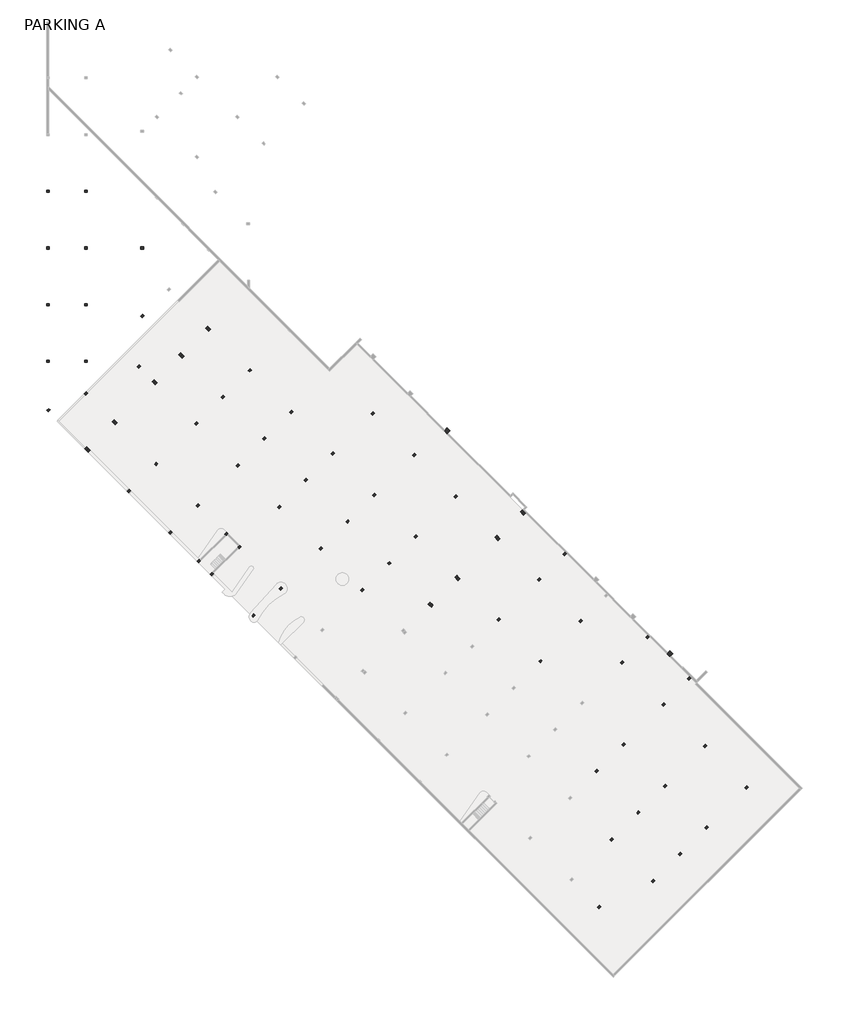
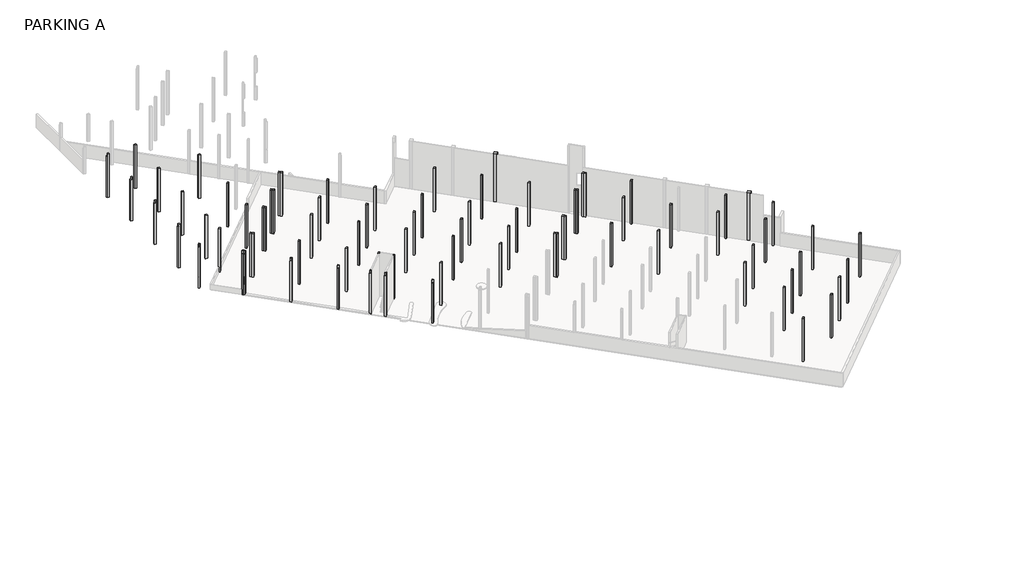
# One storey, part 2 of 3: 81 columns.
"""IFC4 building model written with IfcOpenShell, lengths in millimetres."""

from ifc_helpers import new_model, si_unit, frame, origin, place, context, project, spatial, polyline, outline, extrude, faceted_brep, transform, mapped, element, save
from components import column_746bd152, column_d698a775

model = new_model("IFC4")

# Units and contexts
model_context = context("Model", 3, world=origin())
ifc_project = project(units=[si_unit("LENGTHUNIT", "METRE", prefix="MILLI")], contexts=[model_context])

# Site, building, storey
site = spatial("IfcSite", under=ifc_project)
building = spatial("IfcBuilding", under=site)
storey = spatial("IfcBuildingStorey", under=building, Name="PARKING A", Elevation=-6007.1)

# Columns
placement = place(None, origin())
element("IfcColumn", 1, ObjectType="Rectangular Column : 12\" x 16\"", at=placement, inside=storey, context=model_context, shape_type="Brep", body=[
    faceted_brep([(-49625.8247889, 1181.6924939, -6007.1), (-49410.298642, 966.166347, -6007.1), (-49697.6668379, 678.7981512, -6007.1), (-49913.1929848, 894.3242981, -6007.1), (-49625.8247889, 1181.6924939, 3225.8), (-49410.298642, 966.166347, 3225.8), (-49589.9037645, 786.5612246, 3225.8), (-49589.9037645, 786.5612246, 2717.8), (-49697.6668379, 678.7981512, 2717.8), (-49697.6668379, 678.7981512, 762.0), (-49697.6668379, 678.7981512, -609.6), (-49697.6668379, 678.7981512, -2286.0), (-49697.6668379, 678.7981512, -3657.6), (-49913.1929848, 894.3242981, 2717.8), (-49913.1929848, 894.3242981, 762.0), (-49913.1929848, 894.3242981, -609.6), (-49913.1929848, 894.3242981, -2286.0), (-49913.1929848, 894.3242981, -3657.6), (-49805.4299114, 1002.0873715, 2717.8), (-49805.4299114, 1002.0873715, 3225.8)], [[[0, 1, 2, 3]], [[1, 0, 4, 5]], [[2, 1, 5, 6, 7, 8, 9, 10, 11, 12]], [[3, 2, 12, 11, 10, 9, 8, 13, 14, 15, 16, 17]], [[0, 3, 17, 16, 15, 14, 13, 18, 19, 4]], [[5, 4, 19, 6]], [[18, 7, 6, 19]], [[7, 18, 13, 8]]]),
])
element("IfcColumn", 2, ObjectType="Rectangular Column : 12\" x 16\"", at=placement, inside=storey, context=model_context, shape_type="Brep", body=[
    faceted_brep([(-55660.5569023, 7216.4246073, -6007.1), (-55445.0307554, 7000.8984604, -6007.1), (-55732.3989513, 6713.5302645, -6007.1), (-55947.9250982, 6929.0564114, -6007.1), (-55660.5569023, 7216.4246073, 3225.8), (-55445.0307554, 7000.8984604, 3225.8), (-55624.6358778, 6821.293338, 3225.8), (-55624.6358778, 6821.293338, 2717.8), (-55732.3989513, 6713.5302645, 2717.8), (-55732.3989513, 6713.5302645, 762.0), (-55732.3989513, 6713.5302645, -609.6), (-55732.3989513, 6713.5302645, -2286.0), (-55732.3989513, 6713.5302645, -3657.6), (-55947.9250982, 6929.0564114, 2717.8), (-55947.9250982, 6929.0564114, 762.0), (-55947.9250982, 6929.0564114, -609.6), (-55947.9250982, 6929.0564114, -2286.0), (-55947.9250982, 6929.0564114, -3657.6), (-55840.1620247, 7036.8194849, 2717.8), (-55840.1620247, 7036.8194849, 3225.8)], [[[0, 1, 2, 3]], [[1, 0, 4, 5]], [[2, 1, 5, 6, 7, 8, 9, 10, 11, 12]], [[3, 2, 12, 11, 10, 9, 8, 13, 14, 15, 16, 17]], [[0, 3, 17, 16, 15, 14, 13, 18, 19, 4]], [[5, 4, 19, 6]], [[18, 7, 6, 19]], [[7, 18, 13, 8]]]),
])
element("IfcColumn", 3, ObjectType="Rectangular Column : 12\" x 16\"", at=placement, inside=storey, context=model_context, shape_type="SweptSolid", body=[
    extrude(outline(polyline([(-51709.244209, 11167.7373006), (-51493.7180621, 10952.2111537), (-51781.086258, 10664.8429578), (-51996.6124049, 10880.3691047), (-51709.244209, 11167.7373006)])), frame((0.0, 0.0, -6007.1), z_axis=(0.0, 0.0, 1.0), x_axis=(1.0, 0.0, 0.0)), (0.0, 0.0, 1.0), 9232.9),
])
element("IfcColumn", 4, ObjectType="Rectangular Column : 12\" x 16\"", at=placement, inside=storey, context=model_context, shape_type="Brep", body=[
    faceted_brep([(-57564.3712, 9120.238905, -6007.1), (-57348.8450531, 8904.7127581, -6007.1), (-57636.2132489, 8617.3445622, -6007.1), (-57851.7393958, 8832.8707091, -6007.1), (-57564.3712, 9120.238905, 3225.8), (-57348.8450531, 8904.7127581, 3225.8), (-57528.4501755, 8725.1076356, 3225.8), (-57528.4501755, 8725.1076356, 2717.8), (-57636.2132489, 8617.3445622, 2717.8), (-57636.2132489, 8617.3445622, 762.0), (-57636.2132489, 8617.3445622, -609.6), (-57636.2132489, 8617.3445622, -2286.0), (-57636.2132489, 8617.3445622, -3657.6), (-57851.7393958, 8832.8707091, 2717.8), (-57851.7393958, 8832.8707091, 762.0), (-57851.7393958, 8832.8707091, -609.6), (-57851.7393958, 8832.8707091, -2286.0), (-57851.7393958, 8832.8707091, -3657.6), (-57743.9763224, 8940.6337825, 2717.8), (-57743.9763224, 8940.6337825, 3225.8)], [[[0, 1, 2, 3]], [[1, 0, 4, 5]], [[2, 1, 5, 6, 7, 8, 9, 10, 11, 12]], [[3, 2, 12, 11, 10, 9, 8, 13, 14, 15, 16, 17]], [[0, 3, 17, 16, 15, 14, 13, 18, 19, 4]], [[5, 4, 19, 6]], [[18, 7, 6, 19]], [[7, 18, 13, 8]]]),
])
element("IfcColumn", 5, ObjectType="Rectangular Column : 12\" x 16\"", at=placement, inside=storey, context=model_context, shape_type="SweptSolid", body=[
    extrude(outline(polyline([(-53613.0585067, 13071.5515982), (-53397.5323598, 12856.0254513), (-53684.9005557, 12568.6572555), (-53900.4267026, 12784.1834024), (-53613.0585067, 13071.5515982)])), frame((0.0, 0.0, -6007.1), z_axis=(0.0, 0.0, 1.0), x_axis=(1.0, 0.0, 0.0)), (0.0, 0.0, 1.0), 9232.9),
])
element("IfcColumn", 6, ObjectType="Rectangular Column : 12\" x 16\"", at=placement, inside=storey, context=model_context, shape_type="Brep", body=[
    faceted_brep([(-61695.2890157, 13251.1567207, -6007.1), (-61479.7628688, 13035.6305737, -6007.1), (-61767.1310646, 12748.2623779, -6007.1), (-61982.6572115, 12963.7885248, -6007.1), (-61695.2890157, 13251.1567207, 3225.8), (-61479.7628688, 13035.6305737, 3225.8), (-61659.3679912, 12856.0254513, 3225.8), (-61659.3679912, 12856.0254513, 2717.8), (-61767.1310646, 12748.2623779, 2717.8), (-61767.1310646, 12748.2623779, 762.0), (-61767.1310646, 12748.2623779, -609.6), (-61767.1310646, 12748.2623779, -2286.0), (-61767.1310646, 12748.2623779, -3657.6), (-61982.6572115, 12963.7885248, 2717.8), (-61982.6572115, 12963.7885248, 762.0), (-61982.6572115, 12963.7885248, -609.6), (-61982.6572115, 12963.7885248, -2286.0), (-61982.6572115, 12963.7885248, -3657.6), (-61874.8941381, 13071.5515982, 2717.8), (-61874.8941381, 13071.5515982, 3225.8)], [[[0, 1, 2, 3]], [[1, 0, 4, 5]], [[2, 1, 5, 6, 7, 8, 9, 10, 11, 12]], [[3, 2, 12, 11, 10, 9, 8, 13, 14, 15, 16, 17]], [[0, 3, 17, 16, 15, 14, 13, 18, 19, 4]], [[5, 4, 19, 6]], [[18, 7, 6, 19]], [[7, 18, 13, 8]]]),
])
element("IfcColumn", 7, ObjectType="Rectangular Column : 12\" x 16\"", at=placement, inside=storey, context=model_context, shape_type="Brep", body=[
    faceted_brep([(-67730.021129, 19285.888834, -6007.1), (-67514.4949821, 19070.3626871, -6007.1), (-67801.863178, 18782.9944912, -6007.1), (-68017.3893249, 18998.5206381, -6007.1), (-67730.021129, 19285.888834, 3225.8), (-67514.4949821, 19070.3626871, 3225.8), (-67694.1001045, 18890.7575647, 3225.8), (-67694.1001045, 18890.7575647, 2717.8), (-67801.863178, 18782.9944912, 2717.8), (-67801.863178, 18782.9944912, 762.0), (-67801.863178, 18782.9944912, -609.6), (-67801.863178, 18782.9944912, -2286.0), (-67801.863178, 18782.9944912, -3657.6), (-68017.3893249, 18998.5206381, 2717.8), (-68017.3893249, 18998.5206381, 762.0), (-68017.3893249, 18998.5206381, -609.6), (-68017.3893249, 18998.5206381, -2286.0), (-68017.3893249, 18998.5206381, -3657.6), (-67909.6262514, 19106.2837116, 2717.8), (-67909.6262514, 19106.2837116, 3225.8)], [[[0, 1, 2, 3]], [[1, 0, 4, 5]], [[2, 1, 5, 6, 7, 8, 9, 10, 11, 12]], [[3, 2, 12, 11, 10, 9, 8, 13, 14, 15, 16, 17]], [[0, 3, 17, 16, 15, 14, 13, 18, 19, 4]], [[5, 4, 19, 6]], [[18, 7, 6, 19]], [[7, 18, 13, 8]]]),
])
element("IfcColumn", 8, ObjectType="Rectangular Column : 12\" x 16\"", at=placement, inside=storey, context=model_context, shape_type="Brep", body=[
    faceted_brep([(-73639.0296567, 25194.8973617, -6007.1), (-73423.5035098, 24979.3712148, -6007.1), (-73710.8717057, 24692.0030189, -6007.1), (-73926.3978526, 24907.5291658, -6007.1), (-73639.0296567, 25194.8973617, 3225.8), (-73423.5035098, 24979.3712148, 3225.8), (-73603.1086322, 24799.7660923, 3225.8), (-73603.1086322, 24799.7660923, 2717.8), (-73710.8717057, 24692.0030189, 2717.8), (-73710.8717057, 24692.0030189, 762.0), (-73710.8717057, 24692.0030189, -609.6), (-73710.8717057, 24692.0030189, -2286.0), (-73603.1086322, 24799.7660923, -2286.0), (-73603.1086322, 24799.7660923, -3657.6), (-73710.8717057, 24692.0030189, -3657.6), (-73836.5952914, 24817.7266046, -3657.6), (-73836.5952914, 24817.7266046, -2286.0), (-73926.3978526, 24907.5291658, 2717.8), (-73818.6347791, 25015.2922393, 2717.8), (-73818.6347791, 25015.2922393, 3225.8), (-73728.8322179, 24925.489678, -2286.0), (-73728.8322179, 24925.489678, -3657.6)], [[[0, 1, 2, 3]], [[1, 0, 4, 5]], [[2, 1, 5, 6, 7, 8, 9, 10, 11, 12, 13, 14]], [[3, 2, 14, 15, 16, 11, 10, 9, 8, 17]], [[0, 3, 17, 18, 19, 4]], [[5, 4, 19, 6]], [[20, 21, 13, 12]], [[21, 15, 14, 13]], [[16, 20, 12, 11]], [[21, 20, 16, 15]], [[18, 7, 6, 19]], [[7, 18, 17, 8]]]),
])
element("IfcColumn", 9, ObjectType="Rectangular Column : 12\" x 16\"", at=placement, inside=storey, context=model_context, shape_type="Brep", body=[
    faceted_brep([(-73890.4768281, 25446.3445331, -6007.1), (-73674.9506812, 25230.8183862, -6007.1), (-73962.318877, 24943.4501903, -6007.1), (-74177.845024, 25158.9763372, -6007.1), (-74070.0819505, 25266.7394106, -6007.1), (-73890.4768281, 25446.3445331, 3225.8), (-73674.9506812, 25230.8183862, 3225.8), (-74177.845024, 25158.9763372, -4940.3), (-74177.845024, 25158.9763372, -3657.6), (-74177.845024, 25158.9763372, -2286.0), (-74177.845024, 25158.9763372, -609.6), (-74177.845024, 25158.9763372, 762.0), (-74177.845024, 25158.9763372, 2717.8), (-74070.0819505, 25266.7394106, 2717.8), (-74070.0819505, 25266.7394106, 3225.8), (-73962.318877, 24943.4501903, 2717.8), (-73854.5558036, 25051.2132637, 3225.8), (-73854.5558036, 25051.2132637, 2717.8)], [[[0, 1, 2, 3, 4]], [[1, 0, 5, 6]], [[5, 0, 4, 3, 7, 8, 9, 10, 11, 12, 13, 14]], [[3, 2, 15, 12, 11, 10, 9, 8, 7]], [[2, 1, 6, 16, 17, 15]], [[6, 5, 14, 16]], [[13, 17, 16, 14]], [[17, 13, 12, 15]]]),
])
element("IfcColumn", 10, ObjectType="Rectangular Column : 12\" x 16\"", at=placement, inside=storey, context=model_context, shape_type="Brep", body=[
    faceted_brep([(-79453.7454951, 31009.6132001, -6007.1), (-79238.2193482, 30794.0870532, -6007.1), (-79525.587544, 30506.7188573, -6007.1), (-79741.113691, 30722.2450042, -6007.1), (-79453.7454951, 31009.6132001, 3225.8), (-79238.2193482, 30794.0870532, 3225.8), (-79741.113691, 30722.2450042, -3657.6), (-79588.713691, 30874.6450042, -3657.6), (-79588.713691, 30874.6450042, -2286.0), (-79741.113691, 30722.2450042, -2286.0), (-79741.113691, 30722.2450042, -609.6), (-79588.713691, 30874.6450042, -609.6), (-79588.713691, 30874.6450042, 762.0), (-79741.113691, 30722.2450042, 762.0), (-79741.113691, 30722.2450042, 2717.8), (-79633.3506175, 30830.0080776, 2717.8), (-79633.3506175, 30830.0080776, 2768.6), (-79588.713691, 30874.6450042, 2768.6), (-79588.713691, 30874.6450042, 3225.8), (-79525.587544, 30506.7188573, -3657.6), (-79525.587544, 30506.7188573, -2286.0), (-79525.587544, 30506.7188573, -609.6), (-79525.587544, 30506.7188573, 762.0), (-79525.587544, 30506.7188573, 2717.8), (-79417.8244706, 30614.4819307, 3225.8), (-79417.8244706, 30614.4819307, 2717.8), (-79588.713691, 30785.3711511, 3225.8), (-79588.713691, 30722.2450042, -3657.6), (-79588.713691, 30722.2450042, -2286.0), (-79588.713691, 30722.2450042, -609.6), (-79588.713691, 30722.2450042, 762.0), (-79588.713691, 30785.3711511, 2768.6)], [[[0, 1, 2, 3]], [[1, 0, 4, 5]], [[0, 3, 6, 7, 8, 9, 10, 11, 12, 13, 14, 15, 16, 17, 18, 4]], [[3, 2, 19, 20, 21, 22, 23, 14, 13, 10, 9, 6]], [[2, 1, 5, 24, 25, 23, 22, 21, 20, 19]], [[5, 4, 18, 26, 24]], [[27, 28, 8, 7]], [[6, 27, 7]], [[28, 9, 8]], [[28, 27, 6, 9]], [[29, 30, 12, 11]], [[10, 29, 11]], [[30, 13, 12]], [[30, 29, 10, 13]], [[15, 25, 24, 26, 31, 16]], [[25, 15, 14, 23]], [[17, 31, 26, 18]], [[31, 17, 16]]]),
])
element("IfcColumn", 11, ObjectType="Rectangular Column : 12\" x 16\"", at=placement, inside=storey, context=model_context, shape_type="Brep", body=[
    faceted_brep([(-73751.2828582, 33209.7759497, -6007.1), (-74038.6510541, 32922.4077539, -6007.1), (-74146.4141275, 33030.1708273, -6007.1), (-74254.177201, 33137.9339008, -6007.1), (-73966.8090051, 33425.3020966, -6007.1), (-73859.0459317, 33317.5390232, -6007.1), (-73751.2828582, 33209.7759497, 3225.8), (-73966.8090051, 33425.3020966, -4940.3), (-73966.8090051, 33425.3020966, 3225.8), (-74254.177201, 33137.9339008, -4940.3), (-74254.177201, 33137.9339008, 3225.8), (-74038.6510541, 32922.4077539, 3225.8)], [[[0, 1, 2, 3, 4, 5]], [[6, 0, 5, 4, 7, 8]], [[4, 3, 9, 10, 8, 7]], [[1, 11, 10, 9, 3, 2]], [[1, 0, 6, 11]], [[6, 8, 10, 11]]]),
])
element("IfcColumn", 12, ObjectType="Rectangular Column : 12\" x 16\"", at=placement, inside=storey, context=model_context, shape_type="SweptSolid", body=[
    extrude(outline(polyline([(-73799.5300296, 37705.0660287), (-74205.9300296, 37705.0660287), (-74205.9300296, 38009.8660287), (-73799.5300296, 38009.8660287), (-73799.5300296, 37705.0660287)])), frame((0.0, 0.0, -6007.1), z_axis=(0.0, 0.0, 1.0), x_axis=(1.0, 0.0, 0.0)), (0.0, 0.0, 1.0), 9232.9),
])
element("IfcColumn", 13, ObjectType="Rectangular Column : 12\" x 16\"", at=placement, inside=storey, context=model_context, shape_type="Brep", body=[
    faceted_brep([(-79334.713691, 37705.0660287, -6007.1), (-79741.113691, 37705.0660287, -6007.1), (-79741.113691, 38009.8660287, -6007.1), (-79334.713691, 38009.8660287, -6007.1), (-79334.713691, 38009.8660287, 3225.8), (-79334.713691, 37705.0660287, 3225.8), (-79741.113691, 38009.8660287, -3657.6), (-79741.113691, 38009.8660287, -2286.0), (-79741.113691, 38009.8660287, -609.6), (-79741.113691, 38009.8660287, 762.0), (-79741.113691, 38009.8660287, 2768.6), (-79588.713691, 38009.8660287, 2768.6), (-79588.713691, 38009.8660287, 3225.8), (-79741.113691, 37705.0660287, -3657.6), (-79741.113691, 37705.0660287, -2286.0), (-79741.113691, 37705.0660287, -609.6), (-79741.113691, 37705.0660287, 762.0), (-79741.113691, 37705.0660287, 2768.6), (-79588.713691, 37705.0660287, 3225.8), (-79588.713691, 37705.0660287, 2768.6)], [[[0, 1, 2, 3]], [[0, 3, 4, 5]], [[3, 2, 6, 7, 8, 9, 10, 11, 12, 4]], [[2, 1, 13, 14, 15, 16, 17, 10, 9, 8, 7, 6]], [[1, 0, 5, 18, 19, 17, 16, 15, 14, 13]], [[5, 4, 12, 18]], [[11, 19, 18, 12]], [[19, 11, 10, 17]]]),
])
element("IfcColumn", 14, ObjectType="Rectangular Column : 12\" x 16\"", at=placement, inside=storey, context=model_context, shape_type="Brep", body=[
    faceted_brep([(-79334.713691, 45934.6660287, -6007.1), (-79741.113691, 45934.6660287, -6007.1), (-79741.113691, 46239.4660287, -6007.1), (-79334.713691, 46239.4660287, -6007.1), (-79334.713691, 46239.4660287, 3225.8), (-79334.713691, 45934.6660287, 3225.8), (-79741.113691, 46239.4660287, -3657.6), (-79741.113691, 46239.4660287, -2286.0), (-79741.113691, 46239.4660287, -609.6), (-79741.113691, 46239.4660287, 762.0), (-79741.113691, 46239.4660287, 2768.6), (-79588.713691, 46239.4660287, 2768.6), (-79588.713691, 46239.4660287, 3225.8), (-79741.113691, 45934.6660287, -3657.6), (-79741.113691, 45934.6660287, -2286.0), (-79741.113691, 45934.6660287, -609.6), (-79741.113691, 45934.6660287, 762.0), (-79741.113691, 45934.6660287, 2768.6), (-79588.713691, 45934.6660287, 3225.8), (-79588.713691, 45934.6660287, 2768.6)], [[[0, 1, 2, 3]], [[0, 3, 4, 5]], [[3, 2, 6, 7, 8, 9, 10, 11, 12, 4]], [[2, 1, 13, 14, 15, 16, 17, 10, 9, 8, 7, 6]], [[1, 0, 5, 18, 19, 17, 16, 15, 14, 13]], [[5, 4, 12, 18]], [[11, 19, 18, 12]], [[19, 11, 10, 17]]]),
])
element("IfcColumn", 15, ObjectType="Rectangular Column : 12\" x 16\"", at=placement, inside=storey, context=model_context, shape_type="Brep", body=[
    faceted_brep([(-79741.113691, 54469.0660287, -6007.1), (-79334.713691, 54469.0660287, -6007.1), (-79334.713691, 54164.2660287, -6007.1), (-79741.113691, 54164.2660287, -6007.1), (-79334.713691, 54469.0660287, 3225.8), (-79334.713691, 54164.2660287, 3225.8), (-79588.713691, 54164.2660287, 3225.8), (-79588.713691, 54164.2660287, 2768.6), (-79741.113691, 54164.2660287, 2768.6), (-79741.113691, 54164.2660287, 762.0), (-79741.113691, 54164.2660287, -609.6), (-79741.113691, 54164.2660287, -2286.0), (-79741.113691, 54164.2660287, -3657.6), (-79741.113691, 54469.0660287, 2768.6), (-79741.113691, 54469.0660287, 762.0), (-79741.113691, 54469.0660287, -609.6), (-79741.113691, 54469.0660287, -2286.0), (-79741.113691, 54469.0660287, -3657.6), (-79588.713691, 54469.0660287, 2768.6), (-79588.713691, 54469.0660287, 3225.8)], [[[0, 1, 2, 3]], [[2, 1, 4, 5]], [[3, 2, 5, 6, 7, 8, 9, 10, 11, 12]], [[0, 3, 12, 11, 10, 9, 8, 13, 14, 15, 16, 17]], [[1, 0, 17, 16, 15, 14, 13, 18, 19, 4]], [[5, 4, 19, 6]], [[18, 7, 6, 19]], [[7, 18, 13, 8]]]),
])
element("IfcColumn", 16, ObjectType="Rectangular Column : 12\" x 16\"", at=placement, inside=storey, context=model_context, shape_type="Brep", body=[
    faceted_brep([(-79741.113691, 62698.6660287, -6007.1), (-79334.713691, 62698.6660287, -6007.1), (-79334.713691, 62393.8660287, -6007.1), (-79741.113691, 62393.8660287, -6007.1), (-79334.713691, 62698.6660287, 3225.8), (-79334.713691, 62393.8660287, 3225.8), (-79588.713691, 62393.8660287, 3225.8), (-79588.713691, 62393.8660287, 2768.6), (-79741.113691, 62393.8660287, 2768.6), (-79741.113691, 62393.8660287, 762.0), (-79741.113691, 62393.8660287, -609.6), (-79741.113691, 62393.8660287, -2286.0), (-79741.113691, 62393.8660287, -3657.6), (-79741.113691, 62698.6660287, 2768.6), (-79741.113691, 62698.6660287, 762.0), (-79741.113691, 62698.6660287, -609.6), (-79741.113691, 62698.6660287, -2286.0), (-79741.113691, 62698.6660287, -3657.6), (-79588.713691, 62698.6660287, 2768.6), (-79588.713691, 62698.6660287, 3225.8)], [[[0, 1, 2, 3]], [[2, 1, 4, 5]], [[3, 2, 5, 6, 7, 8, 9, 10, 11, 12]], [[0, 3, 12, 11, 10, 9, 8, 13, 14, 15, 16, 17]], [[1, 0, 17, 16, 15, 14, 13, 18, 19, 4]], [[5, 4, 19, 6]], [[18, 7, 6, 19]], [[7, 18, 13, 8]]]),
])
element("IfcColumn", 17, ObjectType="Rectangular Column : 12\" x 16\"", at=placement, inside=storey, context=model_context, shape_type="SweptSolid", body=[
    extrude(outline(polyline([(-73799.5300296, 45934.6660287), (-74205.9300296, 45934.6660287), (-74205.9300296, 46239.4660287), (-73799.5300296, 46239.4660287), (-73799.5300296, 45934.6660287)])), frame((0.0, 0.0, -6007.1), z_axis=(0.0, 0.0, 1.0), x_axis=(1.0, 0.0, 0.0)), (0.0, 0.0, 1.0), 9232.9),
])
element("IfcColumn", 18, ObjectType="Rectangular Column : 12\" x 16\"", at=placement, inside=storey, context=model_context, shape_type="SweptSolid", body=[
    extrude(outline(polyline([(-73799.5300296, 54469.0660287), (-73799.5300296, 54164.2660287), (-74205.9300296, 54164.2660287), (-74205.9300296, 54469.0660287), (-73799.5300296, 54469.0660287)])), frame((0.0, 0.0, -6007.1), z_axis=(0.0, 0.0, 1.0), x_axis=(1.0, 0.0, 0.0)), (0.0, 0.0, 1.0), 9232.9),
])
element("IfcColumn", 19, ObjectType="Rectangular Column : 12\" x 16\"", at=placement, inside=storey, context=model_context, shape_type="SweptSolid", body=[
    extrude(outline(polyline([(-73799.5300296, 62698.6660287), (-73799.5300296, 62393.8660287), (-74205.9300296, 62393.8660287), (-74205.9300296, 62698.6660287), (-73799.5300296, 62698.6660287)])), frame((0.0, 0.0, -6007.1), z_axis=(0.0, 0.0, 1.0), x_axis=(1.0, 0.0, 0.0)), (0.0, 0.0, 1.0), 9232.9),
])
element("IfcColumn", 20, ObjectType="Rectangular Column : 12\" x 16\"", at=placement, inside=storey, context=model_context, shape_type="SweptSolid", body=[
    extrude(outline(polyline([(-65636.4772155, 54469.0660287), (-65636.4772155, 54164.2660287), (-66042.8772155, 54164.2660287), (-66042.8772155, 54469.0660287), (-65636.4772155, 54469.0660287)])), frame((0.0, 0.0, -6007.1), z_axis=(0.0, 0.0, 1.0), x_axis=(1.0, 0.0, 0.0)), (0.0, 0.0, 1.0), 9232.9),
])
column_shape = column_746bd152(model_context)
element("IfcColumn", 21, ObjectType="Rectangular Column : 12\" x 16\"", at=placement, inside=storey, context=model_context, shape_type="MappedRepresentation", body=[
    mapped(column_shape, transform((13613.1388156, -8211.6554087, 0.0), x_axis=(0.7071067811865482, 0.7071067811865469, 0.0), y_axis=(-0.7071067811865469, 0.7071067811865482, 0.0), z_axis=(0.0, 0.0, 1.0))),
])
element("IfcColumn", 22, ObjectType="Rectangular Column : 12\" x 16\"", at=placement, inside=storey, context=model_context, shape_type="MappedRepresentation", body=[
    mapped(column_shape, transform((21964.7770082, -23998.9456695, 0.0), x_axis=(0.7071067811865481, 0.7071067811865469, 0.0), y_axis=(-0.7071067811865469, 0.7071067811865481, 0.0), z_axis=(0.0, 0.0, 1.0))),
])
element("IfcColumn", 23, ObjectType="Rectangular Column : 12\" x 16\"", at=placement, inside=storey, context=model_context, shape_type="MappedRepresentation", body=[
    mapped(column_shape, transform((15930.0448949, -17964.2135562, 0.0), x_axis=(0.7071067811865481, 0.7071067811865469, 0.0), y_axis=(-0.7071067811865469, 0.7071067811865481, 0.0), z_axis=(0.0, 0.0, 1.0))),
])
element("IfcColumn", 24, ObjectType="Rectangular Column : 12\" x 16\"", at=placement, inside=storey, context=model_context, shape_type="MappedRepresentation", body=[
    mapped(column_shape, transform((16145.5710418, -29818.151636, 0.0), x_axis=(0.7071067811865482, 0.7071067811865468, 0.0), y_axis=(-0.7071067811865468, 0.7071067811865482, 0.0), z_axis=(0.0, 0.0, 1.0))),
])
element("IfcColumn", 25, ObjectType="Rectangular Column : 12\" x 16\"", at=placement, inside=storey, context=model_context, shape_type="MappedRepresentation", body=[
    mapped(column_shape, transform((10110.8389284, -23783.4195226, 0.0), x_axis=(0.7071067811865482, 0.7071067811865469, 0.0), y_axis=(-0.7071067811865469, 0.7071067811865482, 0.0), z_axis=(0.0, 0.0, 1.0))),
])
element("IfcColumn", 26, ObjectType="Rectangular Column : 12\" x 16\"", at=placement, inside=storey, context=model_context, shape_type="MappedRepresentation", body=[
    mapped(column_shape, transform((6231.3682841, -27662.8901669, 0.0), x_axis=(0.7071067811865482, 0.7071067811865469, 0.0), y_axis=(-0.7071067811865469, 0.7071067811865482, 0.0), z_axis=(0.0, 0.0, 1.0))),
])
element("IfcColumn", 27, ObjectType="Rectangular Column : 12\" x 16\"", at=placement, inside=storey, context=model_context, shape_type="MappedRepresentation", body=[
    mapped(column_shape, transform((12266.1003975, -33697.6222803, 0.0), x_axis=(0.7071067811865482, 0.7071067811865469, 0.0), y_axis=(-0.7071067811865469, 0.7071067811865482, 0.0), z_axis=(0.0, 0.0, 1.0))),
])
element("IfcColumn", 28, ObjectType="Rectangular Column : 12\" x 16\"", at=placement, inside=storey, context=model_context, shape_type="MappedRepresentation", body=[
    mapped(column_shape, transform((8386.6297532, -37577.0929246, 0.0), x_axis=(0.7071067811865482, 0.7071067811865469, 0.0), y_axis=(-0.7071067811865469, 0.7071067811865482, 0.0), z_axis=(0.0, 0.0, 1.0))),
])
element("IfcColumn", 29, ObjectType="Rectangular Column : 12\" x 16\"", at=placement, inside=storey, context=model_context, shape_type="MappedRepresentation", body=[
    mapped(column_shape, transform((2351.8976398, -31542.3608112, 0.0), x_axis=(0.7071067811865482, 0.7071067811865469, 0.0), y_axis=(-0.7071067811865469, 0.7071067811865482, 0.0), z_axis=(0.0, 0.0, 1.0))),
])
element("IfcColumn", 30, ObjectType="Rectangular Column : 12\" x 16\"", at=placement, inside=storey, context=model_context, shape_type="MappedRepresentation", body=[
    mapped(column_shape, transform((519.9253911, -41348.8004954, 0.0), x_axis=(0.7071067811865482, 0.7071067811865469, 0.0), y_axis=(-0.7071067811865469, 0.7071067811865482, 0.0), z_axis=(0.0, 0.0, 1.0))),
])
element("IfcColumn", 31, ObjectType="Rectangular Column : 12\" x 16\"", at=placement, inside=storey, context=model_context, shape_type="MappedRepresentation", body=[
    mapped(column_shape, transform((9895.3127815, -11929.4814428, 0.0), x_axis=(0.7071067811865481, 0.7071067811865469, 0.0), y_axis=(-0.7071067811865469, 0.7071067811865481, 0.0), z_axis=(0.0, 0.0, 1.0))),
])
element("IfcColumn", 32, ObjectType="Rectangular Column : 12\" x 16\"", at=placement, inside=storey, context=model_context, shape_type="MappedRepresentation", body=[
    mapped(column_shape, transform((4076.106815, -17748.6874093, 0.0), x_axis=(0.7071067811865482, 0.7071067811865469, 0.0), y_axis=(-0.7071067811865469, 0.7071067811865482, 0.0), z_axis=(0.0, 0.0, 1.0))),
])
element("IfcColumn", 33, ObjectType="Rectangular Column : 12\" x 16\"", at=placement, inside=storey, context=model_context, shape_type="MappedRepresentation", body=[
    mapped(column_shape, transform((196.6361707, -21628.1580536, 0.0), x_axis=(0.7071067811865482, 0.7071067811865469, 0.0), y_axis=(-0.7071067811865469, 0.7071067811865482, 0.0), z_axis=(0.0, 0.0, 1.0))),
])
element("IfcColumn", 34, ObjectType="Rectangular Column : 12\" x 16\"", at=placement, inside=storey, context=model_context, shape_type="MappedRepresentation", body=[
    mapped(column_shape, transform((3860.5806681, -5894.7493295, 0.0), x_axis=(0.7071067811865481, 0.7071067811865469, 0.0), y_axis=(-0.7071067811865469, 0.7071067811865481, 0.0), z_axis=(0.0, 0.0, 1.0))),
])
element("IfcColumn", 35, ObjectType="Rectangular Column : 12\" x 16\"", at=placement, inside=storey, context=model_context, shape_type="MappedRepresentation", body=[
    mapped(column_shape, transform((-2174.1514452, 139.9827839, 0.0), x_axis=(0.7071067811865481, 0.7071067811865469, 0.0), y_axis=(-0.7071067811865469, 0.7071067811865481, 0.0), z_axis=(0.0, 0.0, 1.0))),
])
element("IfcColumn", 36, ObjectType="Rectangular Column : 12\" x 16\"", at=placement, inside=storey, context=model_context, shape_type="MappedRepresentation", body=[
    mapped(column_shape, transform((-7993.3574117, -5679.2231826, 0.0), x_axis=(0.7071067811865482, 0.7071067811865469, 0.0), y_axis=(-0.7071067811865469, 0.7071067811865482, 0.0), z_axis=(0.0, 0.0, 1.0))),
])
element("IfcColumn", 37, ObjectType="Rectangular Column : 12\" x 16\"", at=placement, inside=storey, context=model_context, shape_type="MappedRepresentation", body=[
    mapped(column_shape, transform((-8208.8835586, 6174.7148972, 0.0), x_axis=(0.7071067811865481, 0.7071067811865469, 0.0), y_axis=(-0.7071067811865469, 0.7071067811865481, 0.0), z_axis=(0.0, 0.0, 1.0))),
])
element("IfcColumn", 38, ObjectType="Rectangular Column : 12\" x 16\"", at=placement, inside=storey, context=model_context, shape_type="MappedRepresentation", body=[
    mapped(column_shape, transform((-14028.089525, 355.5089308, 0.0), x_axis=(0.7071067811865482, 0.7071067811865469, 0.0), y_axis=(-0.7071067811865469, 0.7071067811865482, 0.0), z_axis=(0.0, 0.0, 1.0))),
])
element("IfcColumn", 39, ObjectType="Rectangular Column : 12\" x 16\"", at=placement, inside=storey, context=model_context, shape_type="MappedRepresentation", body=[
    mapped(column_shape, transform((-14117.8920862, 12083.7234249, 0.0), x_axis=(0.7071067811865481, 0.7071067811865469, 0.0), y_axis=(-0.7071067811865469, 0.7071067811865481, 0.0), z_axis=(0.0, 0.0, 1.0))),
])
element("IfcColumn", 40, ObjectType="Rectangular Column : 12\" x 16\"", at=placement, inside=storey, context=model_context, shape_type="MappedRepresentation", body=[
    mapped(column_shape, transform((-19937.0980527, 6264.5174585, 0.0), x_axis=(0.7071067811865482, 0.7071067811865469, 0.0), y_axis=(-0.7071067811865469, 0.7071067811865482, 0.0), z_axis=(0.0, 0.0, 1.0))),
])
element("IfcColumn", 41, ObjectType="Rectangular Column : 12\" x 16\"", at=placement, inside=storey, context=model_context, shape_type="MappedRepresentation", body=[
    mapped(column_shape, transform((-23816.568697, 2385.0468142, 0.0), x_axis=(0.7071067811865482, 0.7071067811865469, 0.0), y_axis=(-0.7071067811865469, 0.7071067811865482, 0.0), z_axis=(0.0, 0.0, 1.0))),
])
element("IfcColumn", 42, ObjectType="Rectangular Column : 12\" x 16\"", at=placement, inside=storey, context=model_context, shape_type="MappedRepresentation", body=[
    mapped(column_shape, transform((-20278.3477853, 18244.179124, 0.0), x_axis=(0.7071067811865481, 0.7071067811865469, 0.0), y_axis=(-0.7071067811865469, 0.7071067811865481, 0.0), z_axis=(0.0, 0.0, 1.0))),
])
element("IfcColumn", 43, ObjectType="Rectangular Column : 12\" x 16\"", at=placement, inside=storey, context=model_context, shape_type="MappedRepresentation", body=[
    mapped(column_shape, transform((-26097.5537517, 12424.9731575, 0.0), x_axis=(0.7071067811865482, 0.7071067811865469, 0.0), y_axis=(-0.7071067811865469, 0.7071067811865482, 0.0), z_axis=(0.0, 0.0, 1.0))),
])
element("IfcColumn", 44, ObjectType="Rectangular Column : 12\" x 16\"", at=placement, inside=storey, context=model_context, shape_type="MappedRepresentation", body=[
    mapped(column_shape, transform((-29977.024396, 8545.5025132, 0.0), x_axis=(0.7071067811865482, 0.7071067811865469, 0.0), y_axis=(-0.7071067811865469, 0.7071067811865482, 0.0), z_axis=(0.0, 0.0, 1.0))),
])
element("IfcColumn", 45, ObjectType="Rectangular Column : 12\" x 16\"", at=placement, inside=storey, context=model_context, shape_type="MappedRepresentation", body=[
    mapped(column_shape, transform((-33856.4950404, 4666.0318689, 0.0), x_axis=(0.7071067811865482, 0.7071067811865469, 0.0), y_axis=(-0.7071067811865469, 0.7071067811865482, 0.0), z_axis=(0.0, 0.0, 1.0))),
])
element("IfcColumn", 46, ObjectType="Rectangular Column : 12\" x 16\"", at=placement, inside=storey, context=model_context, shape_type="MappedRepresentation", body=[
    mapped(column_shape, transform((-26313.0798987, 24278.9112373, 0.0), x_axis=(0.7071067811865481, 0.7071067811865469, 0.0), y_axis=(-0.7071067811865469, 0.7071067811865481, 0.0), z_axis=(0.0, 0.0, 1.0))),
])
element("IfcColumn", 47, ObjectType="Rectangular Column : 12\" x 16\"", at=placement, inside=storey, context=model_context, shape_type="MappedRepresentation", body=[
    mapped(column_shape, transform((-32132.2858651, 18459.7052709, 0.0), x_axis=(0.7071067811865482, 0.7071067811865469, 0.0), y_axis=(-0.7071067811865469, 0.7071067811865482, 0.0), z_axis=(0.0, 0.0, 1.0))),
])
element("IfcColumn", 48, ObjectType="Rectangular Column : 12\" x 16\"", at=placement, inside=storey, context=model_context, shape_type="MappedRepresentation", body=[
    mapped(column_shape, transform((-36011.7565094, 14580.2346266, 0.0), x_axis=(0.7071067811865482, 0.7071067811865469, 0.0), y_axis=(-0.7071067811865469, 0.7071067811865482, 0.0), z_axis=(0.0, 0.0, 1.0))),
])
element("IfcColumn", 49, ObjectType="Rectangular Column : 12\" x 16\"", at=placement, inside=storey, context=model_context, shape_type="MappedRepresentation", body=[
    mapped(column_shape, transform((-39891.2271537, 10700.7639823, 0.0), x_axis=(0.7071067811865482, 0.7071067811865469, 0.0), y_axis=(-0.7071067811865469, 0.7071067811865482, 0.0), z_axis=(0.0, 0.0, 1.0))),
])
element("IfcColumn", 50, ObjectType="Rectangular Column : 12\" x 16\"", at=placement, inside=storey, context=model_context, shape_type="MappedRepresentation", body=[
    mapped(column_shape, transform((-45710.4331202, 4881.5580158, 0.0), x_axis=(0.7071067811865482, 0.7071067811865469, 0.0), y_axis=(-0.7071067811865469, 0.7071067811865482, 0.0), z_axis=(0.0, 0.0, 1.0))),
])
element("IfcColumn", 51, ObjectType="Rectangular Column : 12\" x 16\"", at=placement, inside=storey, context=model_context, shape_type="MappedRepresentation", body=[
    mapped(column_shape, transform((-32347.812012, 30313.6433507, 0.0), x_axis=(0.7071067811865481, 0.7071067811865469, 0.0), y_axis=(-0.7071067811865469, 0.7071067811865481, 0.0), z_axis=(0.0, 0.0, 1.0))),
])
element("IfcColumn", 52, ObjectType="Rectangular Column : 12\" x 16\"", at=placement, inside=storey, context=model_context, shape_type="MappedRepresentation", body=[
    mapped(column_shape, transform((-38167.0179785, 24494.4373842, 0.0), x_axis=(0.7071067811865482, 0.7071067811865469, 0.0), y_axis=(-0.7071067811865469, 0.7071067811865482, 0.0), z_axis=(0.0, 0.0, 1.0))),
])
element("IfcColumn", 53, ObjectType="Rectangular Column : 12\" x 16\"", at=placement, inside=storey, context=model_context, shape_type="MappedRepresentation", body=[
    mapped(column_shape, transform((-42046.4886228, 20614.9667399, 0.0), x_axis=(0.7071067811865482, 0.7071067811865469, 0.0), y_axis=(-0.7071067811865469, 0.7071067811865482, 0.0), z_axis=(0.0, 0.0, 1.0))),
])
element("IfcColumn", 54, ObjectType="Rectangular Column : 12\" x 16\"", at=placement, inside=storey, context=model_context, shape_type="MappedRepresentation", body=[
    mapped(column_shape, transform((-45925.9592671, 16735.4960956, 0.0), x_axis=(0.7071067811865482, 0.7071067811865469, 0.0), y_axis=(-0.7071067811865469, 0.7071067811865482, 0.0), z_axis=(0.0, 0.0, 1.0))),
])
element("IfcColumn", 55, ObjectType="Rectangular Column : 12\" x 16\"", at=placement, inside=storey, context=model_context, shape_type="MappedRepresentation", body=[
    mapped(column_shape, transform((-44201.7500918, 30529.1694976, 0.0), x_axis=(0.7071067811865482, 0.7071067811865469, 0.0), y_axis=(-0.7071067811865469, 0.7071067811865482, 0.0), z_axis=(0.0, 0.0, 1.0))),
])
element("IfcColumn", 56, ObjectType="Rectangular Column : 12\" x 16\"", at=placement, inside=storey, context=model_context, shape_type="MappedRepresentation", body=[
    mapped(column_shape, transform((-48081.2207361, 26649.6988533, 0.0), x_axis=(0.7071067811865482, 0.7071067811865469, 0.0), y_axis=(-0.7071067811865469, 0.7071067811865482, 0.0), z_axis=(0.0, 0.0, 1.0))),
])
element("IfcColumn", 57, ObjectType="Rectangular Column : 12\" x 16\"", at=placement, inside=storey, context=model_context, shape_type="MappedRepresentation", body=[
    mapped(column_shape, transform((-51960.6913804, 22770.228209, 0.0), x_axis=(0.7071067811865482, 0.7071067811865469, 0.0), y_axis=(-0.7071067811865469, 0.7071067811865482, 0.0), z_axis=(0.0, 0.0, 1.0))),
])
element("IfcColumn", 58, ObjectType="Rectangular Column : 12\" x 16\"", at=placement, inside=storey, context=model_context, shape_type="MappedRepresentation", body=[
    mapped(column_shape, transform((-57779.8973469, 16951.0222425, 0.0), x_axis=(0.7071067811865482, 0.7071067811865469, 0.0), y_axis=(-0.7071067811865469, 0.7071067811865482, 0.0), z_axis=(0.0, 0.0, 1.0))),
])
element("IfcColumn", 59, ObjectType="Rectangular Column : 12\" x 16\"", at=placement, inside=storey, context=model_context, shape_type="MappedRepresentation", body=[
    mapped(column_shape, transform((-50236.4822052, 36563.9016109, 0.0), x_axis=(0.7071067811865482, 0.7071067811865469, 0.0), y_axis=(-0.7071067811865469, 0.7071067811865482, 0.0), z_axis=(0.0, 0.0, 1.0))),
])
element("IfcColumn", 60, ObjectType="Rectangular Column : 12\" x 16\"", at=placement, inside=storey, context=model_context, shape_type="MappedRepresentation", body=[
    mapped(column_shape, transform((-54115.9528495, 32684.4309666, 0.0), x_axis=(0.7071067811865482, 0.7071067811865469, 0.0), y_axis=(-0.7071067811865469, 0.7071067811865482, 0.0), z_axis=(0.0, 0.0, 1.0))),
])
element("IfcColumn", 61, ObjectType="Rectangular Column : 12\" x 16\"", at=placement, inside=storey, context=model_context, shape_type="MappedRepresentation", body=[
    mapped(column_shape, transform((-57995.4234938, 28804.9603223, 0.0), x_axis=(0.7071067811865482, 0.7071067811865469, 0.0), y_axis=(-0.7071067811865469, 0.7071067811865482, 0.0), z_axis=(0.0, 0.0, 1.0))),
])
element("IfcColumn", 62, ObjectType="Rectangular Column : 12\" x 16\"", at=placement, inside=storey, context=model_context, shape_type="MappedRepresentation", body=[
    mapped(column_shape, transform((-63814.6294602, 22985.7543559, 0.0), x_axis=(0.7071067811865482, 0.7071067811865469, 0.0), y_axis=(-0.7071067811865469, 0.7071067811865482, 0.0), z_axis=(0.0, 0.0, 1.0))),
])
element("IfcColumn", 63, ObjectType="Rectangular Column : 12\" x 16\"", at=placement, inside=storey, context=model_context, shape_type="MappedRepresentation", body=[
    mapped(column_shape, transform((-56145.4907328, 42472.9101386, 0.0), x_axis=(0.7071067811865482, 0.7071067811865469, 0.0), y_axis=(-0.7071067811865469, 0.7071067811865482, 0.0), z_axis=(0.0, 0.0, 1.0))),
])
element("IfcColumn", 64, ObjectType="Rectangular Column : 12\" x 16\"", at=placement, inside=storey, context=model_context, shape_type="MappedRepresentation", body=[
    mapped(column_shape, transform((-60024.9613771, 38593.4394943, 0.0), x_axis=(0.7071067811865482, 0.7071067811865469, 0.0), y_axis=(-0.7071067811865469, 0.7071067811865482, 0.0), z_axis=(0.0, 0.0, 1.0))),
])
element("IfcColumn", 65, ObjectType="Rectangular Column : 12\" x 16\"", at=placement, inside=storey, context=model_context, shape_type="MappedRepresentation", body=[
    mapped(column_shape, transform((-63904.4320214, 34713.96885, 0.0), x_axis=(0.7071067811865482, 0.7071067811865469, 0.0), y_axis=(-0.7071067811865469, 0.7071067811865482, 0.0), z_axis=(0.0, 0.0, 1.0))),
])
element("IfcColumn", 66, ObjectType="Rectangular Column : 12\" x 16\"", at=placement, inside=storey, context=model_context, shape_type="MappedRepresentation", body=[
    mapped(column_shape, transform((-69723.6379879, 28894.7628836, 0.0), x_axis=(0.7071067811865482, 0.7071067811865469, 0.0), y_axis=(-0.7071067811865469, 0.7071067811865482, 0.0), z_axis=(0.0, 0.0, 1.0))),
])
element("IfcColumn", 67, ObjectType="Rectangular Column : 12\" x 16\"", at=placement, inside=storey, context=model_context, shape_type="MappedRepresentation", body=[
    mapped(column_shape, transform((7578.4067023, -2176.9232953, 0.0), x_axis=(0.7071067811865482, 0.7071067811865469, 0.0), y_axis=(-0.7071067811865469, 0.7071067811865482, 0.0), z_axis=(0.0, 0.0, 1.0))),
])
element("IfcColumn", 68, ObjectType="Rectangular Column : 12\" x 16\"", at=placement, inside=storey, context=model_context, shape_type="MappedRepresentation", body=[
    mapped(column_shape, transform((-4491.0575245, 9892.5409314, 0.0), x_axis=(0.7071067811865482, 0.7071067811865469, 0.0), y_axis=(-0.7071067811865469, 0.7071067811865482, 0.0), z_axis=(0.0, 0.0, 1.0))),
])
element("IfcColumn", 69, ObjectType="Rectangular Column : 12\" x 16\"", at=placement, inside=storey, context=model_context, shape_type="MappedRepresentation", body=[
    mapped(column_shape, transform((-10400.0660521, 15801.549459, 0.0), x_axis=(0.7071067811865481, 0.7071067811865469, 0.0), y_axis=(-0.7071067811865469, 0.7071067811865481, 0.0), z_axis=(0.0, 0.0, 1.0))),
])
column_2_shape = column_d698a775(model_context)
element("IfcColumn", 70, ObjectType="Rectangular Column : 12\" x 16\"", at=placement, inside=storey, context=model_context, shape_type="MappedRepresentation", body=[
    mapped(column_2_shape, transform((-14369.3392576, 12335.1705963, 0.0), x_axis=(0.7071067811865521, 0.7071067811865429, 0.0), y_axis=(-0.7071067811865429, 0.7071067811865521, 0.0), z_axis=(0.0, 0.0, 1.0))),
])
element("IfcColumn", 71, ObjectType="Rectangular Column : 12\" x 16\"", at=placement, inside=storey, context=model_context, shape_type="MappedRepresentation", body=[
    mapped(column_2_shape, transform((-20188.5452241, 6515.9646299, 0.0), x_axis=(0.7071067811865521, 0.707106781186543, 0.0), y_axis=(-0.707106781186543, 0.7071067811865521, 0.0), z_axis=(0.0, 0.0, 1.0))),
])
element("IfcColumn", 72, ObjectType="Rectangular Column : 12\" x 16\"", at=placement, inside=storey, context=model_context, shape_type="MappedRepresentation", body=[
    mapped(column_2_shape, transform((-24068.0158684, 2636.4939855, 0.0), x_axis=(0.7071067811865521, 0.707106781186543, 0.0), y_axis=(-0.707106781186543, 0.7071067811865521, 0.0), z_axis=(0.0, 0.0, 1.0))),
])
element("IfcColumn", 73, ObjectType="Rectangular Column : 12\" x 16\"", at=placement, inside=storey, context=model_context, shape_type="MappedRepresentation", body=[
    mapped(column_2_shape, transform((-56396.9379042, 42724.35731, 0.0), x_axis=(0.7071067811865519, 0.7071067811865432, 0.0), y_axis=(-0.7071067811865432, 0.7071067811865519, 0.0), z_axis=(0.0, 0.0, 1.0))),
])
element("IfcColumn", 74, ObjectType="Rectangular Column : 12\" x 16\"", at=placement, inside=storey, context=model_context, shape_type="MappedRepresentation", body=[
    mapped(column_2_shape, transform((-60276.4085485, 38844.8866657, 0.0), x_axis=(0.7071067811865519, 0.7071067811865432, 0.0), y_axis=(-0.7071067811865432, 0.7071067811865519, 0.0), z_axis=(0.0, 0.0, 1.0))),
])
element("IfcColumn", 75, ObjectType="Rectangular Column : 12\" x 16\"", at=placement, inside=storey, context=model_context, shape_type="MappedRepresentation", body=[
    mapped(column_2_shape, transform((-64155.8791928, 34965.4160214, 0.0), x_axis=(0.7071067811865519, 0.7071067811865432, 0.0), y_axis=(-0.7071067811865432, 0.7071067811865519, 0.0), z_axis=(0.0, 0.0, 1.0))),
])
element("IfcColumn", 76, ObjectType="Rectangular Column : 12\" x 16\"", at=placement, inside=storey, context=model_context, shape_type="MappedRepresentation", body=[
    mapped(column_2_shape, transform((-69975.0851593, 29146.2100549, 0.0), x_axis=(0.7071067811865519, 0.7071067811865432, 0.0), y_axis=(-0.7071067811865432, 0.7071067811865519, 0.0), z_axis=(0.0, 0.0, 1.0))),
])
element("IfcColumn", 77, ObjectType="Rectangular Column : 12\" x 16\"", at=placement, inside=storey, context=model_context, shape_type="MappedRepresentation", body=[
    mapped(column_2_shape, transform((-66311.1406619, 37120.6774905, 0.0), x_axis=(0.7071067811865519, 0.7071067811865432, 0.0), y_axis=(-0.7071067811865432, 0.7071067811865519, 0.0), z_axis=(0.0, 0.0, 1.0))),
])
element("IfcColumn", 78, ObjectType="Rectangular Column : 12\" x 16\"", at=placement, inside=storey, context=model_context, shape_type="MappedRepresentation", body=[
    mapped(column_2_shape, transform((-65839.6772155, 44408.1553327, 0.0), x_axis=(0.7071067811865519, 0.7071067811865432, 0.0), y_axis=(-0.7071067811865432, 0.7071067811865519, 0.0), z_axis=(0.0, 0.0, 1.0))),
])
element("IfcColumn", 79, ObjectType="Rectangular Column : 12\" x 16\"", at=placement, inside=storey, context=model_context, shape_type="MappedRepresentation", body=[
    mapped(column_2_shape, transform((-10651.5132235, 16052.9966304, 0.0), x_axis=(0.7071067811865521, 0.7071067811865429, 0.0), y_axis=(-0.7071067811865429, 0.7071067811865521, 0.0), z_axis=(0.0, 0.0, 1.0))),
])
element("IfcColumn", 80, ObjectType="Rectangular Column : 24\" x 24\"", at=placement, inside=storey, context=model_context, shape_type="SweptSolid", body=[
    extrude(outline(polyline([(10818.0340979, -4159.3148341), (11249.0863917, -4590.3671279), (10818.0340979, -5021.4194217), (10386.9818041, -4590.3671279), (10818.0340979, -4159.3148341)])), frame((0.0, 0.0, -6007.1), z_axis=(0.0, 0.0, 1.0), x_axis=(1.0, 0.0, 0.0)), (0.0, 0.0, 1.0), 10147.3),
])
element("IfcColumn", 81, ObjectType="Rectangular Column : 24\" x 24\"", at=placement, inside=storey, context=model_context, shape_type="Brep", body=[
    faceted_brep([(-21536.1926674, 28194.9119313, -6007.1), (-21105.1403736, 27763.8596375, -6007.1), (-21428.429594, 27440.5704171, -6007.1), (-21536.1926674, 27332.8073437, -6007.1), (-21967.2449612, 27763.8596375, -6007.1), (-21536.1926674, 28194.9119313, 4140.2), (-21105.1403736, 27763.8596375, 4140.2), (-21967.2449612, 27763.8596375, 4140.2), (-21536.1926674, 27332.8073437, 4089.4), (-21536.1926674, 27332.8073437, 4140.2)], [[[0, 1, 2, 3, 4]], [[1, 0, 5, 6]], [[0, 4, 7, 5]], [[4, 3, 8, 9, 7]], [[1, 6, 9, 8, 3, 2]], [[6, 5, 7, 9]]]),
])

save(model, "model.ifc")
